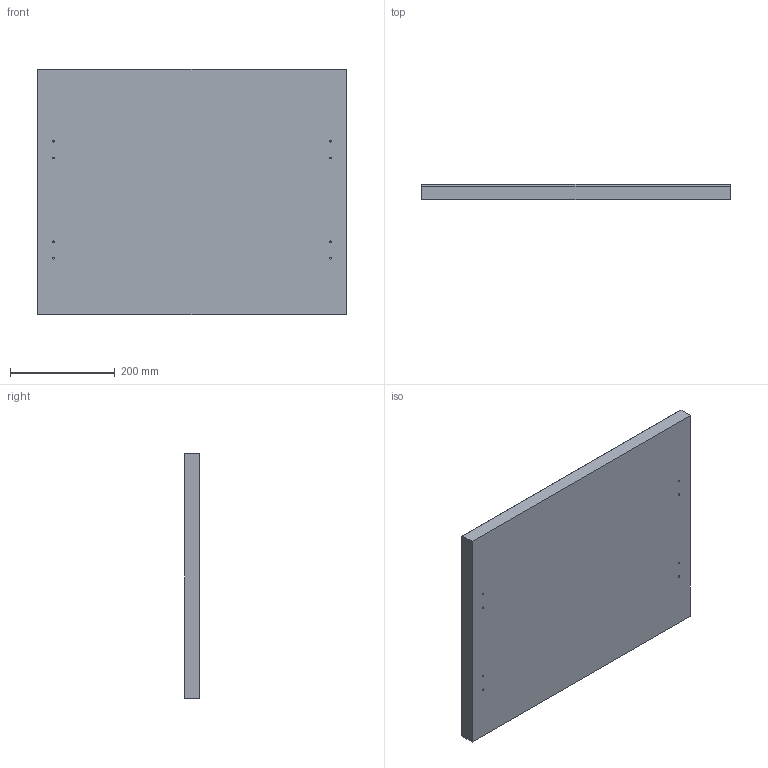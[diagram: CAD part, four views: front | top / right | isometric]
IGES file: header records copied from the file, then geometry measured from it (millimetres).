
Start section: SolidWorks IGES file using analytic representation for surfaces
Global section: file name: C:\Users\rkopecki\Desktop\60.IGS; native system: SolidWorks 2012; preprocessor: SolidWorks 2012; author: rkopecki; date: 200625.130933; units: millimetre
Bounding box: 590 x 28 x 470 mm (x, y, z)
Surface area: 612583.7 mm2 (no closed solid volume)
Topology: 0 solids, 0 shells, 32 faces, 512 edges, 512 vertices
Faces by surface type: revolution 18, bspline 14
